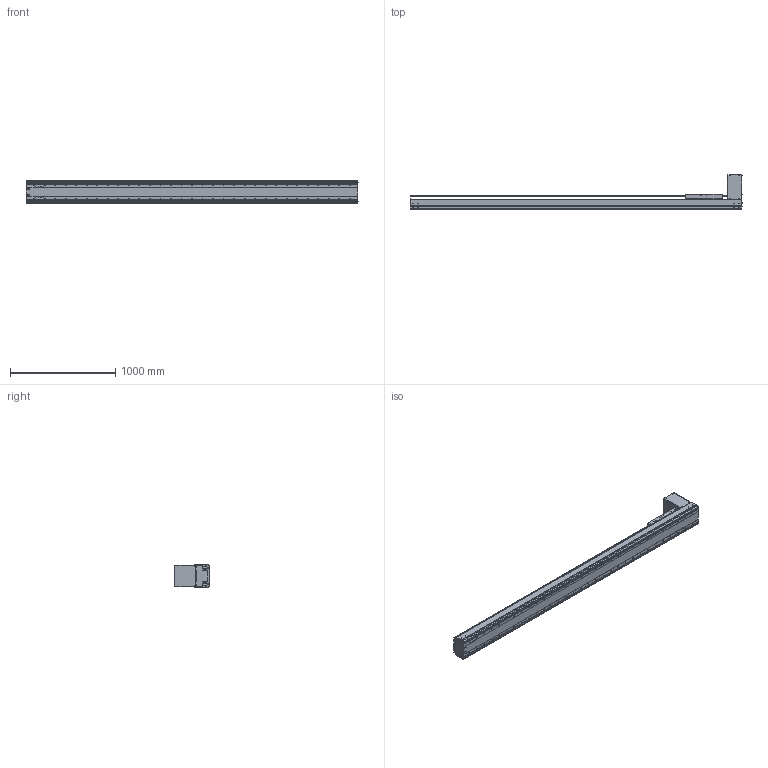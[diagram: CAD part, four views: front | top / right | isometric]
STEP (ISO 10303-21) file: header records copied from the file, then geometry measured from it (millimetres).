
FILE_DESCRIPTION((''),'2;1');
FILE_NAME('BE60J-BT-L19N-R5_IGS_PRT','2017-06-18T',(' '),(''),'PRO/ENGINEER BY PARAMETRIC TECHNOLOGY CORPORATION, 2015030','PRO/ENGINEER BY PARAMETRIC TECHNOLOGY CORPORATION, 2015030','');
FILE_SCHEMA(('CONFIG_CONTROL_DESIGN'));
Products named in the file (1): BE60J-BT-L19N-R5_IGS_PRT
Bounding box: 3154.4 x 327.5 x 214 mm (x, y, z)
Volume: 24275201.2 mm3; surface area: 6718424.2 mm2
Topology: 2 solids, 375 shells, 2600 faces, 7379 edges, 4965 vertices
Faces by surface type: cylinder 1316, plane 890, cone 298, torus 48, sphere 48
Entity records: 87377 total; most frequent: CARTESIAN_POINT 20448, DIRECTION 13931, ORIENTED_EDGE 13072, EDGE_CURVE 7172, AXIS2_PLACEMENT_3D 5339, VERTEX_POINT 4954, VECTOR 3253, LINE 3253
